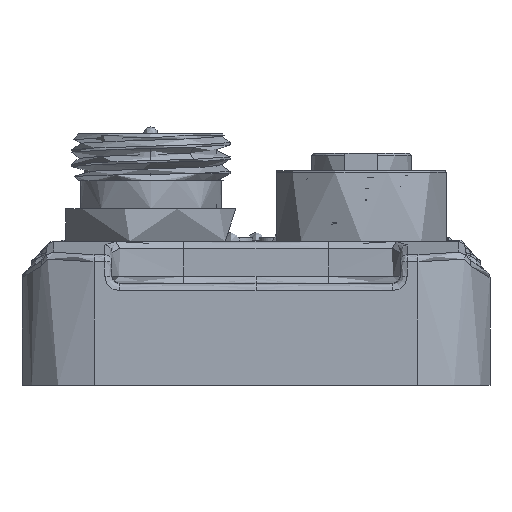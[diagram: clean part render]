
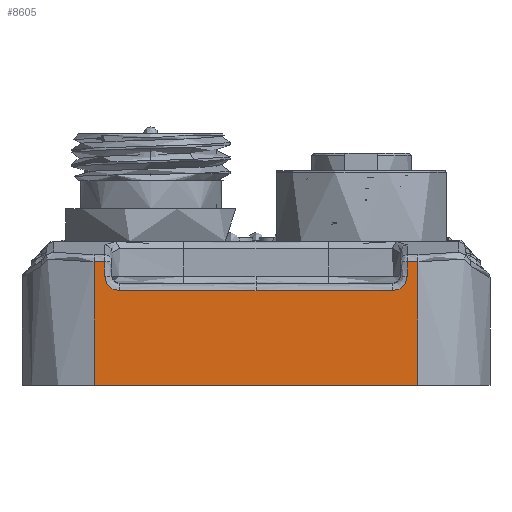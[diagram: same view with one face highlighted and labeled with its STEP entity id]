
A CAD part, front view. The second image highlights one B-rep face of the part: STEP entity #8605.
In plain terms, the highlighted planar face has unit normal (0, -1, 0).
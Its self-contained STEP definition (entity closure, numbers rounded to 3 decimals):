
#2592=B_SPLINE_CURVE_WITH_KNOTS('',3,(#176254,#176255,#176256,#176257,#176258,
#176259,#176260,#176261,#176262,#176263),.UNSPECIFIED.,.F.,.F.,(4,3,3,4),
(0.,0.105,0.526,1.),.UNSPECIFIED.);
#2593=B_SPLINE_CURVE_WITH_KNOTS('',3,(#176278,#176279,#176280,#176281,#176282,
#176283,#176284,#176285,#176286,#176287),.UNSPECIFIED.,.F.,.F.,(4,3,3,4),
(0.,0.105,0.526,1.),.UNSPECIFIED.);
#2594=B_SPLINE_CURVE_WITH_KNOTS('',3,(#176304,#176305,#176306,#176307,#176308,
#176309,#176310),.UNSPECIFIED.,.F.,.F.,(4,3,4),(0.,0.425,1.),
 .UNSPECIFIED.);
#2595=B_SPLINE_CURVE_WITH_KNOTS('',3,(#176323,#176324,#176325,#176326),
 .UNSPECIFIED.,.F.,.F.,(4,4),(0.,1.),.UNSPECIFIED.);
#2596=B_SPLINE_CURVE_WITH_KNOTS('',3,(#176339,#176340,#176341,#176342),
 .UNSPECIFIED.,.F.,.F.,(4,4),(0.,1.),.UNSPECIFIED.);
#2597=B_SPLINE_CURVE_WITH_KNOTS('',3,(#176355,#176356,#176357,#176358,#176359,
#176360,#176361),.UNSPECIFIED.,.F.,.F.,(4,3,4),(0.,0.992,1.),
 .UNSPECIFIED.);
#8605=ADVANCED_FACE('',(#17194),#13721,.T.);
#13721=PLANE('',#103411);
#17194=FACE_OUTER_BOUND('',#22763,.T.);
#22763=EDGE_LOOP('',(#37628,#37629,#37630,#37631,#37632,#37633,#37634,#37635,
#37636,#37637,#37638));
#27925=CIRCLE('',#103337,2.);
#27929=CIRCLE('',#103342,2.);
#37628=ORIENTED_EDGE('',*,*,#73635,.T.);
#37629=ORIENTED_EDGE('',*,*,#73634,.T.);
#37630=ORIENTED_EDGE('',*,*,#73765,.T.);
#37631=ORIENTED_EDGE('',*,*,#73767,.T.);
#37632=ORIENTED_EDGE('',*,*,#73752,.T.);
#37633=ORIENTED_EDGE('',*,*,#73633,.T.);
#37634=ORIENTED_EDGE('',*,*,#73632,.F.);
#37635=ORIENTED_EDGE('',*,*,#73631,.F.);
#37636=ORIENTED_EDGE('',*,*,#73629,.T.);
#37637=ORIENTED_EDGE('',*,*,#73627,.T.);
#37638=ORIENTED_EDGE('',*,*,#73625,.T.);
#62424=VERTEX_POINT('',#172501);
#62427=VERTEX_POINT('',#172537);
#62643=VERTEX_POINT('',#175370);
#62714=VERTEX_POINT('',#176232);
#62715=VERTEX_POINT('',#176247);
#62716=VERTEX_POINT('',#176249);
#62717=VERTEX_POINT('',#176253);
#62718=VERTEX_POINT('',#176277);
#62719=VERTEX_POINT('',#176301);
#62792=VERTEX_POINT('',#176827);
#62799=VERTEX_POINT('',#176853);
#73625=EDGE_CURVE('',#62715,#62716,#27925,.T.);
#73627=EDGE_CURVE('',#62717,#62715,#2592,.T.);
#73629=EDGE_CURVE('',#62718,#62717,#2593,.T.);
#73631=EDGE_CURVE('',#62718,#62719,#27929,.T.);
#73632=EDGE_CURVE('',#62719,#62424,#2594,.T.);
#73633=EDGE_CURVE('',#62643,#62424,#2595,.T.);
#73634=EDGE_CURVE('',#62427,#62714,#2596,.T.);
#73635=EDGE_CURVE('',#62716,#62427,#2597,.T.);
#73752=EDGE_CURVE('',#62792,#62643,#87005,.T.);
#73765=EDGE_CURVE('',#62714,#62799,#87015,.T.);
#73767=EDGE_CURVE('',#62799,#62792,#87016,.T.);
#87005=LINE('',#176826,#95622);
#87015=LINE('',#176852,#95632);
#87016=LINE('',#176856,#95633);
#95622=VECTOR('',#114484,1.);
#95632=VECTOR('',#114512,1.);
#95633=VECTOR('',#114517,1.);
#103337=AXIS2_PLACEMENT_3D('',#176250,#114276,#114277);
#103342=AXIS2_PLACEMENT_3D('',#176302,#114286,#114287);
#103411=AXIS2_PLACEMENT_3D('',#176857,#114518,#114519);
#114276=DIRECTION('',(0.,1.,0.));
#114277=DIRECTION('',(0.,0.,-1.));
#114286=DIRECTION('',(0.,-1.,0.));
#114287=DIRECTION('',(0.,0.,-1.));
#114484=DIRECTION('',(0.,0.,1.));
#114512=DIRECTION('',(0.,0.,-1.));
#114517=DIRECTION('',(1.,0.,0.));
#114518=DIRECTION('',(0.,-1.,0.));
#114519=DIRECTION('',(0.,0.,1.));
#172501=CARTESIAN_POINT('',(394.038,-449.408,22.526));
#172537=CARTESIAN_POINT('',(352.038,-449.408,22.526));
#175370=CARTESIAN_POINT('',(395.538,-449.408,22.526));
#176232=CARTESIAN_POINT('',(350.538,-449.408,22.526));
#176247=CARTESIAN_POINT('',(354.038,-449.408,18.51));
#176249=CARTESIAN_POINT('',(352.038,-449.408,20.51));
#176250=CARTESIAN_POINT('',(354.038,-449.408,20.51));
#176253=CARTESIAN_POINT('',(373.038,-449.408,18.51));
#176254=CARTESIAN_POINT('',(373.038,-449.408,18.51));
#176255=CARTESIAN_POINT('',(372.371,-449.408,18.51));
#176256=CARTESIAN_POINT('',(371.705,-449.408,18.51));
#176257=CARTESIAN_POINT('',(371.038,-449.408,18.51));
#176258=CARTESIAN_POINT('',(368.371,-449.408,18.51));
#176259=CARTESIAN_POINT('',(365.705,-449.408,18.51));
#176260=CARTESIAN_POINT('',(363.038,-449.408,18.51));
#176261=CARTESIAN_POINT('',(360.038,-449.408,18.51));
#176262=CARTESIAN_POINT('',(357.038,-449.408,18.51));
#176263=CARTESIAN_POINT('',(354.038,-449.408,18.51));
#176277=CARTESIAN_POINT('',(392.038,-449.408,18.51));
#176278=CARTESIAN_POINT('',(392.038,-449.408,18.51));
#176279=CARTESIAN_POINT('',(391.371,-449.408,18.51));
#176280=CARTESIAN_POINT('',(390.705,-449.408,18.51));
#176281=CARTESIAN_POINT('',(390.038,-449.408,18.51));
#176282=CARTESIAN_POINT('',(387.371,-449.408,18.51));
#176283=CARTESIAN_POINT('',(384.705,-449.408,18.51));
#176284=CARTESIAN_POINT('',(382.038,-449.408,18.51));
#176285=CARTESIAN_POINT('',(379.038,-449.408,18.51));
#176286=CARTESIAN_POINT('',(376.038,-449.408,18.51));
#176287=CARTESIAN_POINT('',(373.038,-449.408,18.51));
#176301=CARTESIAN_POINT('',(394.038,-449.408,20.51));
#176302=CARTESIAN_POINT('',(392.038,-449.408,20.51));
#176304=CARTESIAN_POINT('',(394.038,-449.408,20.51));
#176305=CARTESIAN_POINT('',(394.038,-449.408,20.795));
#176306=CARTESIAN_POINT('',(394.038,-449.408,21.081));
#176307=CARTESIAN_POINT('',(394.038,-449.408,21.367));
#176308=CARTESIAN_POINT('',(394.038,-449.408,21.753));
#176309=CARTESIAN_POINT('',(394.038,-449.408,22.139));
#176310=CARTESIAN_POINT('',(394.038,-449.408,22.526));
#176323=CARTESIAN_POINT('',(395.538,-449.408,22.526));
#176324=CARTESIAN_POINT('',(395.038,-449.408,22.526));
#176325=CARTESIAN_POINT('',(394.538,-449.408,22.526));
#176326=CARTESIAN_POINT('',(394.038,-449.408,22.526));
#176339=CARTESIAN_POINT('',(352.038,-449.408,22.526));
#176340=CARTESIAN_POINT('',(351.538,-449.408,22.526));
#176341=CARTESIAN_POINT('',(351.038,-449.408,22.526));
#176342=CARTESIAN_POINT('',(350.538,-449.408,22.526));
#176355=CARTESIAN_POINT('',(352.038,-449.408,20.51));
#176356=CARTESIAN_POINT('',(352.038,-449.408,21.176));
#176357=CARTESIAN_POINT('',(352.038,-449.408,21.843));
#176358=CARTESIAN_POINT('',(352.038,-449.408,22.51));
#176359=CARTESIAN_POINT('',(352.038,-449.408,22.515));
#176360=CARTESIAN_POINT('',(352.038,-449.408,22.52));
#176361=CARTESIAN_POINT('',(352.038,-449.408,22.526));
#176826=CARTESIAN_POINT('',(395.538,-449.408,21.));
#176827=CARTESIAN_POINT('',(395.538,-449.408,5.371));
#176852=CARTESIAN_POINT('',(350.538,-449.408,21.));
#176853=CARTESIAN_POINT('',(350.538,-449.408,5.371));
#176856=CARTESIAN_POINT('',(373.038,-449.408,5.371));
#176857=CARTESIAN_POINT('',(373.038,-449.408,21.));
